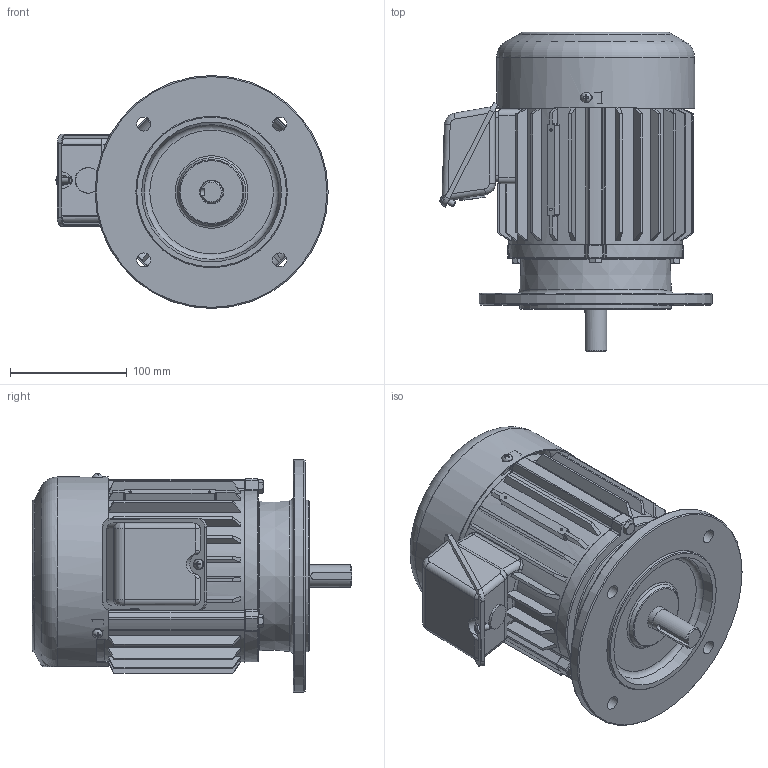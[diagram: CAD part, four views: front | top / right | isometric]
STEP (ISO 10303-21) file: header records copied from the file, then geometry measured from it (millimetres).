
FILE_DESCRIPTION(/* description */ ('Unknown'),/* implementation_level */ '2;1');
FILE_NAME(/* name */ '1-SMA-33826_외형도(140DIA)',/* time_stamp */ '2026-07-24T08:39:56+09:00',/* author */ ('Unknown'),/* organization */ ('Unknown'),/* preprocessor_version */ 'ST-DEVELOPER v16',/* originating_system */ 'DEX',/* authorisation */ $);
FILE_SCHEMA (('AUTOMOTIVE_DESIGN {1 0 10303 214 3 1 1}'));
Products named in the file (17): 1-SMA-33826_寇屈档(140DI; 2-SMA-30849_FRAME(140DIA); 3-SMA-30850_擅粽塭鰍(140D; 4-SMA-30847_菴粽塭鰍(140D; 5-SMA-30851_SHAFT(120DIA); 6-SMA-31241_FAN(120DIA~140DIA); 7-SMA-30642_FAN COVER(140DIA); 幫陝 M6x1x25orea.949; SMA33038,33039_攪嘐割 const_holder; 8-SMA-33038_T-BOX(鼻)(120,140DIA); 9-SMA-33039_T-BOX(ﾇﾏ)(120~140DIA)玲n; T-BOX 憶っ(120~160DIA; T-BOX 歜衛 馨檜綰斜楠萄(120~傽(; 褊濠 菅斬 該葬 獐お M5x; 菅斬 褊濠 M5x0.8x; 6204ZZ; 6203ZZ
Assembly tree (23 placements, depth 3):
  1-SMA-33826_寇屈档(140DI
    2-SMA-30849_FRAME(140DIA)
    3-SMA-30850_擅粽塭鰍(140D
    4-SMA-30847_菴粽塭鰍(140D
    5-SMA-30851_SHAFT(120DIA)
    6-SMA-31241_FAN(120DIA~140DIA)
    7-SMA-30642_FAN COVER(140DIA)
    幫陝 M6x1x25orea.949  x6
    SMA33038,33039_攪嘐割 const_holder
      8-SMA-33038_T-BOX(鼻)(120,140DIA)
      9-SMA-33039_T-BOX(ﾇﾏ)(120~140DIA)玲n
      T-BOX 憶っ(120~160DIA
      T-BOX 歜衛 馨檜綰斜楠萄(120~傽(
      褊濠 菅斬 該葬 獐お M5x
    菅斬 褊濠 M5x0.8x  x3
    6204ZZ
    6203ZZ
Bounding box: 233.63 x 274 x 200 mm (x, y, z)
Volume: 1161852 mm3; surface area: 575942.6 mm2
Topology: 44 solids, 44 shells, 1601 faces, 3996 edges, 2527 vertices
Faces by surface type: plane 574, cylinder 527, cone 283, torus 155, sphere 36, bspline 26
Full cylindrical faces by diameter (mm): 2.2 x2, 4.134 x7, 4.917 x12, 5 x7, 6 x17, 8 x6, 9 x1, 12 x4, 14.1 x1, 14.2 x1, 16.8 x1, 17 x2, 17.6 x1, 19 x1, 19.8 x1, 20 x2, 20.1 x1, 20.5 x1, 22 x2, 22.5 x1, 23.571 x2, 23.971 x2, 27.714 x2, 28.114 x2, 29 x2, 33 x2, 33.029 x2, 33.429 x2, 34 x1, 38.886 x2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
Entity records: 57894 total; most frequent: CARTESIAN_POINT 20723, DIRECTION 7219, ORIENTED_EDGE 6756, EDGE_CURVE 3378, AXIS2_PLACEMENT_3D 2966, VERTEX_POINT 2249, FACE_BOUND 1843, EDGE_LOOP 1819
